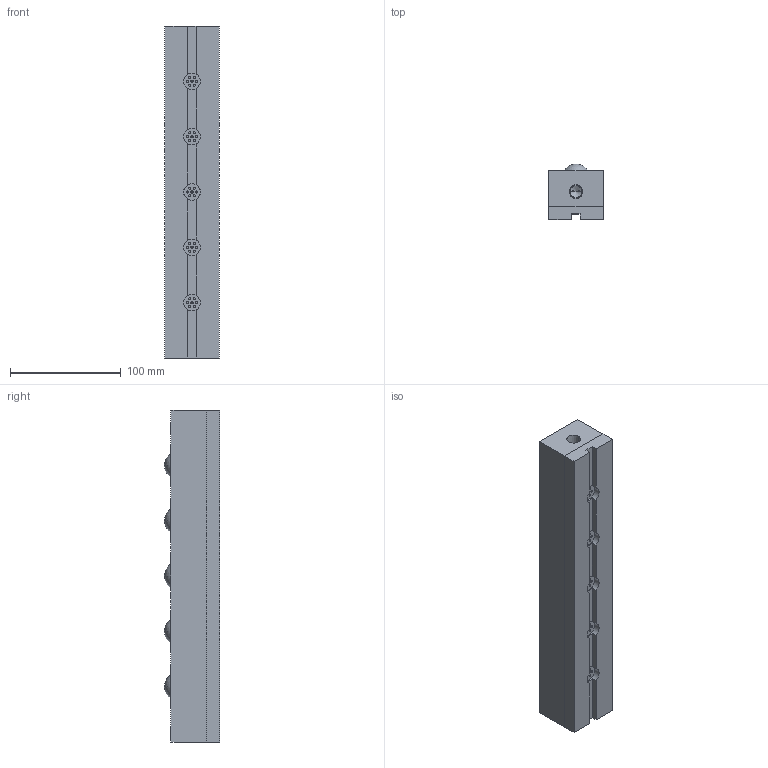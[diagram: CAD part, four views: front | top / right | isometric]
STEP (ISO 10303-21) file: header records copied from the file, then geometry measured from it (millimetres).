
FILE_DESCRIPTION (( 'STEP AP203' ), '1' );
FILE_NAME ('PVL55SH-5.STEP', '2016-01-25T01:07:56', ( '' ), ( '' ), 'SwSTEP 2.0', 'SolidWorks 2013', '' );
FILE_SCHEMA (( 'CONFIG_CONTROL_DESIGN' ));
Length unit declared in the file: millimetre
Products named in the file (1): PVL55SH-5
Bounding box: 49 x 50 x 300 mm (x, y, z)
Volume: 630161.9 mm3; surface area: 106397.6 mm2
Topology: 2 solids, 2 shells, 248 faces, 540 edges, 360 vertices
Faces by surface type: cylinder 138, plane 96, sphere 10, cone 4
Entity records: 7025 total; most frequent: DIRECTION 1356, CARTESIAN_POINT 1147, ORIENTED_EDGE 1076, AXIS2_PLACEMENT_3D 569, EDGE_CURVE 538, VERTEX_POINT 360, EDGE_LOOP 322, CIRCLE 320
